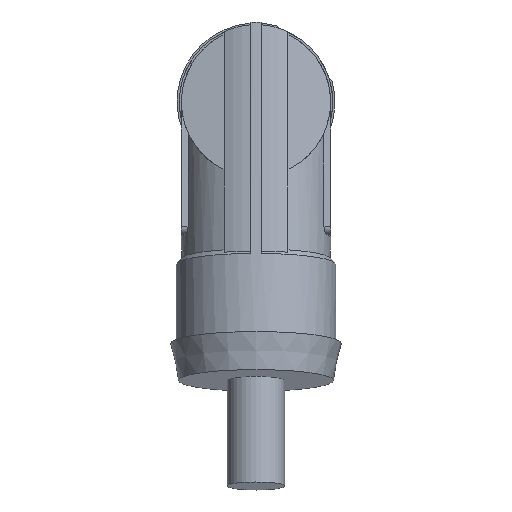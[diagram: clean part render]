
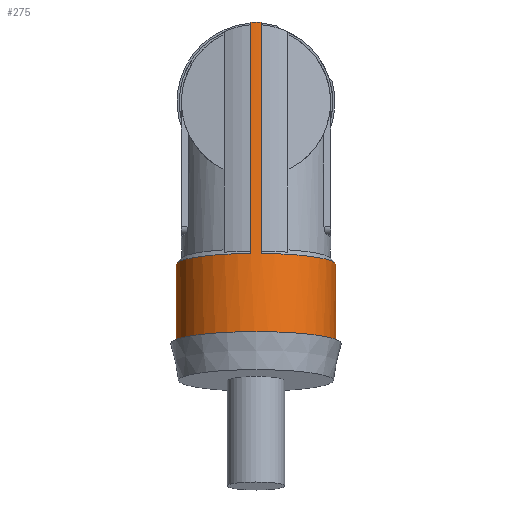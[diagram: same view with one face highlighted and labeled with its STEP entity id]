
A CAD part, left-side view. The second image highlights one B-rep face of the part: STEP entity #275.
In plain terms, the highlighted cylindrical face has radius 7.5 mm (diameter 15 mm), a full revolution.
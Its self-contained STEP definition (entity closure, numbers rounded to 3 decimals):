
#275 = ADVANCED_FACE( '', ( #573, #574 ), #575, .T. );
#573 = FACE_OUTER_BOUND( '', #871, .T. );
#574 = FACE_OUTER_BOUND( '', #872, .T. );
#575 = CYLINDRICAL_SURFACE( '', #873, 7.5 );
#871 = EDGE_LOOP( '', ( #1595 ) );
#872 = EDGE_LOOP( '', ( #1596, #1597, #1598, #1599, #1600, #1601, #1602, #1603 ) );
#873 = AXIS2_PLACEMENT_3D( '', #1604, #1605, #1606 );
#1595 = ORIENTED_EDGE( '', *, *, #1875, .T. );
#1596 = ORIENTED_EDGE( '', *, *, #1858, .F. );
#1597 = ORIENTED_EDGE( '', *, *, #1747, .T. );
#1598 = ORIENTED_EDGE( '', *, *, #1863, .F. );
#1599 = ORIENTED_EDGE( '', *, *, #1759, .T. );
#1600 = ORIENTED_EDGE( '', *, *, #1922, .F. );
#1601 = ORIENTED_EDGE( '', *, *, #1675, .F. );
#1602 = ORIENTED_EDGE( '', *, *, #1739, .F. );
#1603 = ORIENTED_EDGE( '', *, *, #1854, .F. );
#1604 = CARTESIAN_POINT( '', ( -13.632, 0., -12.71 ) );
#1605 = DIRECTION( '', ( 0.139, 0., 0.99 ) );
#1606 = DIRECTION( '', ( 0., -1., 0. ) );
#1675 = EDGE_CURVE( '', #1974, #1976, #1977, .T. );
#1739 = EDGE_CURVE( '', #2085, #1974, #2087, .T. );
#1747 = EDGE_CURVE( '', #2100, #2098, #2101, .T. );
#1759 = EDGE_CURVE( '', #2122, #2120, #2123, .T. );
#1854 = EDGE_CURVE( '', #2272, #2085, #2274, .T. );
#1858 = EDGE_CURVE( '', #2100, #2272, #2278, .T. );
#1863 = EDGE_CURVE( '', #2122, #2098, #2284, .T. );
#1875 = EDGE_CURVE( '', #2299, #2299, #2300, .T. );
#1922 = EDGE_CURVE( '', #1976, #2120, #2363, .T. );
#1974 = VERTEX_POINT( '', #2420 );
#1976 = VERTEX_POINT( '', #2434 );
#1977 = LINE( '', #2435, #2436 );
#2085 = VERTEX_POINT( '', #2628 );
#2087 = CIRCLE( '', #2642, 7.5 );
#2098 = VERTEX_POINT( '', #2721 );
#2100 = VERTEX_POINT( '', #2735 );
#2101 = LINE( '', #2736, #2737 );
#2120 = VERTEX_POINT( '', #2828 );
#2122 = VERTEX_POINT( '', #2831 );
#2123 = LINE( '', #2832, #2833 );
#2272 = VERTEX_POINT( '', #3287 );
#2274 = LINE( '', #3290, #3291 );
#2278 = ELLIPSE( '', #3296, 9.938, 7.5 );
#2284 = CIRCLE( '', #3302, 7.5 );
#2299 = VERTEX_POINT( '', #3356 );
#2300 = CIRCLE( '', #3357, 7.5 );
#2363 = ELLIPSE( '', #3546, 9.938, 7.5 );
#2420 = CARTESIAN_POINT( '', ( -6.578, -0.5, -16.284 ) );
#2434 = CARTESIAN_POINT( '', ( -5.341, -0.5, -7.483 ) );
#2435 = CARTESIAN_POINT( '', ( -6.226, -0.5, -13.78 ) );
#2436 = VECTOR( '', #3611, 1000. );
#2628 = CARTESIAN_POINT( '', ( -21.399, -0.5, -14.201 ) );
#2642 = AXIS2_PLACEMENT_3D( '', #3699, #3700, #3701 );
#2721 = CARTESIAN_POINT( '', ( -21.399, 0.5, -14.201 ) );
#2735 = CARTESIAN_POINT( '', ( -18.351, 0.5, 7.483 ) );
#2736 = CARTESIAN_POINT( '', ( -21.047, 0.5, -11.697 ) );
#2737 = VECTOR( '', #3707, 1000. );
#2828 = CARTESIAN_POINT( '', ( -5.341, 0.5, -7.483 ) );
#2831 = CARTESIAN_POINT( '', ( -6.578, 0.5, -16.284 ) );
#2832 = CARTESIAN_POINT( '', ( -6.226, 0.5, -13.78 ) );
#2833 = VECTOR( '', #3718, 1000. );
#3287 = CARTESIAN_POINT( '', ( -18.351, -0.5, 7.483 ) );
#3290 = CARTESIAN_POINT( '', ( -21.047, -0.5, -11.697 ) );
#3291 = VECTOR( '', #3845, 1000. );
#3296 = AXIS2_PLACEMENT_3D( '', #3850, #3851, #3852 );
#3302 = AXIS2_PLACEMENT_3D( '', #3859, #3860, #3861 );
#3356 = CARTESIAN_POINT( '', ( -15.028, 7.5, -22.641 ) );
#3357 = AXIS2_PLACEMENT_3D( '', #3868, #3869, #3870 );
#3546 = AXIS2_PLACEMENT_3D( '', #3937, #3938, #3939 );
#3611 = DIRECTION( '', ( 0.139, 0., 0.99 ) );
#3699 = CARTESIAN_POINT( '', ( -13.988, 0., -15.242 ) );
#3700 = DIRECTION( '', ( 0.139, 0., 0.99 ) );
#3701 = DIRECTION( '', ( 0., 1., 0. ) );
#3707 = DIRECTION( '', ( -0.139, 0., -0.99 ) );
#3718 = DIRECTION( '', ( 0.139, 0., 0.99 ) );
#3845 = DIRECTION( '', ( -0.139, 0., -0.99 ) );
#3850 = CARTESIAN_POINT( '', ( -11.846, 0., 0. ) );
#3851 = DIRECTION( '', ( 0.755, 0., 0.656 ) );
#3852 = DIRECTION( '', ( 0.656, 0., -0.755 ) );
#3859 = CARTESIAN_POINT( '', ( -13.988, 0., -15.242 ) );
#3860 = DIRECTION( '', ( 0.139, 0., 0.99 ) );
#3861 = DIRECTION( '', ( 0., 1., 0. ) );
#3868 = CARTESIAN_POINT( '', ( -15.028, 0., -22.641 ) );
#3869 = DIRECTION( '', ( 0.139, 0., 0.99 ) );
#3870 = DIRECTION( '', ( 0., 1., 0. ) );
#3937 = CARTESIAN_POINT( '', ( -11.846, 0., 0. ) );
#3938 = DIRECTION( '', ( 0.755, 0., 0.656 ) );
#3939 = DIRECTION( '', ( 0.656, 0., -0.755 ) );
